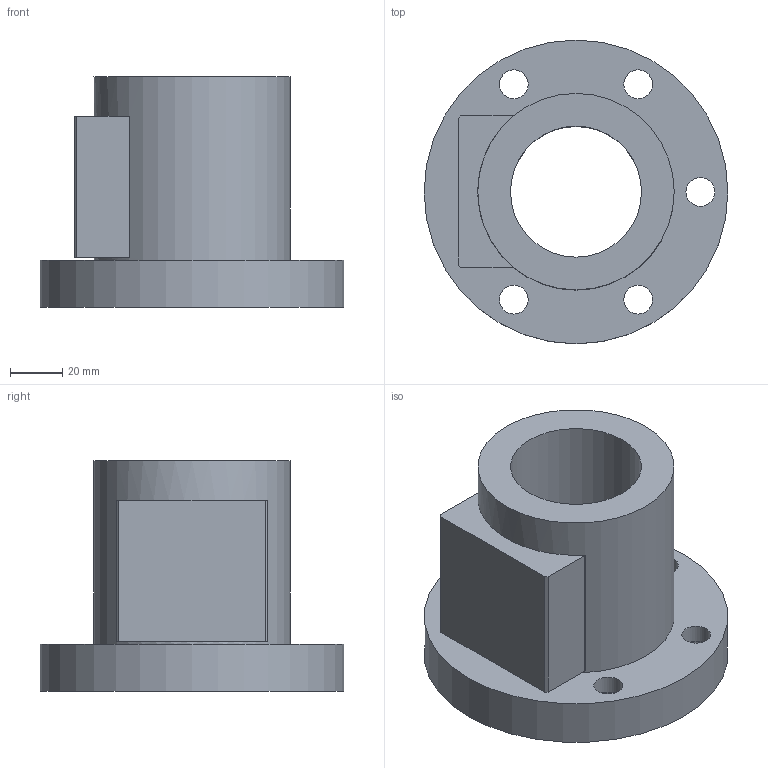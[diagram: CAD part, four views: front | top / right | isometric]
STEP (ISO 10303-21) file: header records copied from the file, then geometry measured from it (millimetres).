
FILE_DESCRIPTION(/* description */ (''),/* implementation_level */ '2;1');
FILE_NAME(/* name */ '50-8B2',/* time_stamp */ '2006-07-31T11:48:59+08:00',/* author */ (''),/* organization */ (''),/* preprocessor_version */ 'ST-DEVELOPER v9',/* originating_system */ 'UGS - NX 4.0',/* authorisation */ '');
FILE_SCHEMA (('CONFIG_CONTROL_DESIGN'));
Length unit declared in the file: millimetre
Products named in the file (1): 50-8B2
Bounding box: 116 x 116 x 88 mm (x, y, z)
Volume: 346654.6 mm3; surface area: 60528.9 mm2
Topology: 1 solids, 1 shells, 30 faces, 67 edges, 46 vertices
Faces by surface type: plane 17, cylinder 13
Full cylindrical faces by diameter (mm): 11 x5, 17.5 x5, 50 x1, 75 x1, 116 x1
Entity records: 860 total; most frequent: DIRECTION 140, CARTESIAN_POINT 123, ORIENTED_EDGE 100, EDGE_LOOP 62, AXIS2_PLACEMENT_3D 59, EDGE_CURVE 50, FACE_BOUND 45, VERTEX_POINT 42
